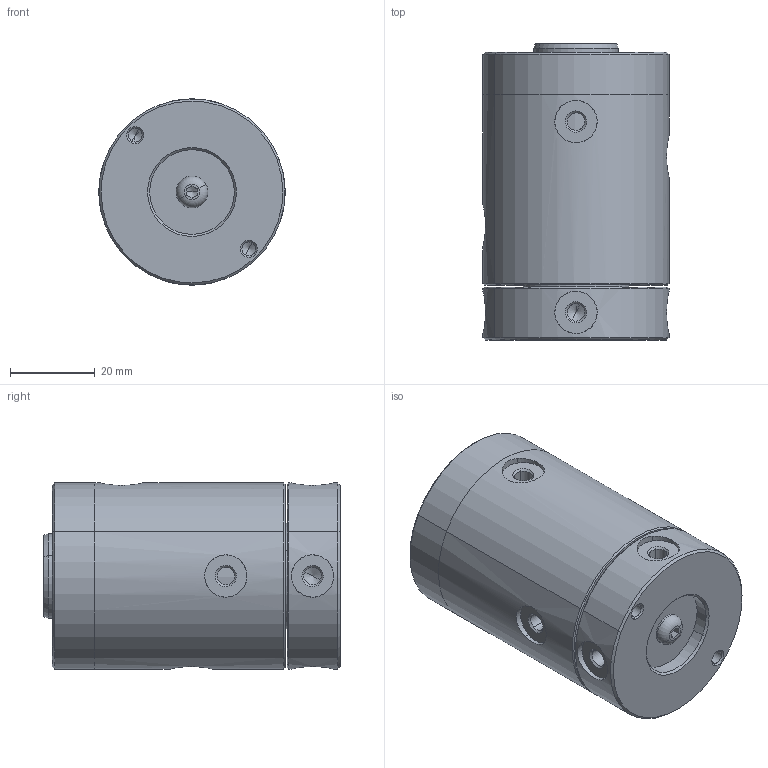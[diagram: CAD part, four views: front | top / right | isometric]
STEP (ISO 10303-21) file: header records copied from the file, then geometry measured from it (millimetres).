
FILE_DESCRIPTION(('CATIA V5 STEP Exchange'),'2;1');
FILE_NAME('\\kjf-102\KJF_TC\Hydraulic_Clamp\Standard\ROTARY\AIR\RTCH-0404A\배포도면\RTCH-0404A_-.stp','2025-07-11T04:44:24+00:00',('none'),('none'),'CATIA Version 5 Release 19 SP 9 (IN-10)','CATIA V5 STEP AP214','none');
FILE_SCHEMA(('AUTOMOTIVE_DESIGN { 1 0 10303 214 1 1 1 1 }'));
Length unit declared in the file: millimetre
Products named in the file (9): RTCH-0404A_-; RTCH-0404A_-_HOUSING; RTCH-0404A_-_COVER; RTCH-0404A_-_ROTE; RTCH-0404A_-_SLEEVE; M4-12; 6804ZZ; SNAP RING 20; DOWEL PIN 2.0x10
Assembly tree (9 placements, depth 2):
  RTCH-0404A_-
    RTCH-0404A_-_HOUSING
    RTCH-0404A_-_COVER
    RTCH-0404A_-_ROTE
    RTCH-0404A_-_SLEEVE
    M4-12
    6804ZZ  x2
    SNAP RING 20
    DOWEL PIN 2.0x10
Bounding box: 44 x 70 x 44 mm (x, y, z)
Volume: 97013 mm3; surface area: 39798.2 mm2
Topology: 57 solids, 57 shells, 388 faces, 933 edges, 468 vertices
Faces by surface type: cylinder 117, sphere 100, cone 94, plane 49, torus 28
Entity records: 8438 total; most frequent: CARTESIAN_POINT 1610, ORIENTED_EDGE 1194, DIRECTION 1002, EDGE_CURVE 597, AXIS2_PLACEMENT_3D 559, VERTEX_POINT 382, EDGE_LOOP 363, CIRCLE 339
